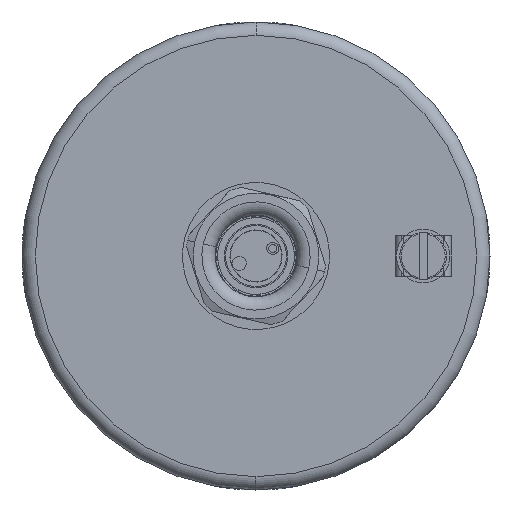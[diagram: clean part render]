
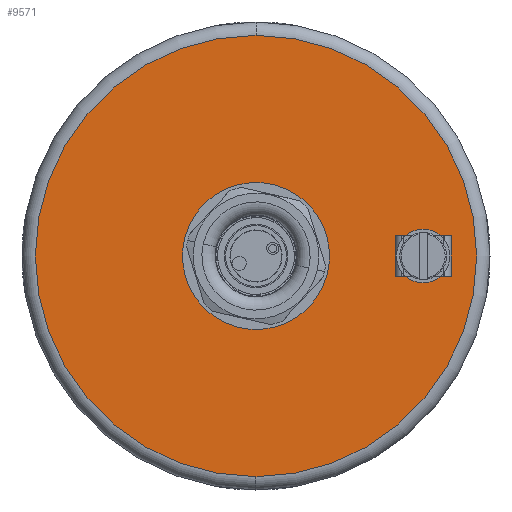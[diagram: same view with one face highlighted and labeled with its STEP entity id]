
A CAD part, left-side view. The second image highlights one B-rep face of the part: STEP entity #9571.
In plain terms, the highlighted planar face has unit normal (-1, 0, 0).
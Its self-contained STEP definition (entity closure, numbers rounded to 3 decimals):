
#819 = VERTEX_POINT ( 'NONE', #7577 ) ;
#1901 = CIRCLE ( 'NONE', #20270, 33. ) ;
#2283 = CARTESIAN_POINT ( 'NONE',  ( -70.2, -25., 0. ) ) ;
#2665 = ORIENTED_EDGE ( 'NONE', *, *, #28764, .F. ) ;
#2803 = VERTEX_POINT ( 'NONE', #29095 ) ;
#4082 = CARTESIAN_POINT ( 'NONE',  ( -70.2, 0., 8.25 ) ) ;
#4620 = DIRECTION ( 'NONE',  ( 0., 0., 1. ) ) ;
#5084 = EDGE_CURVE ( 'NONE', #13679, #819, #19835, .T. ) ;
#5354 = DIRECTION ( 'NONE',  ( 1., 0., 0. ) ) ;
#5719 = CARTESIAN_POINT ( 'NONE',  ( -70.2, -25., 0. ) ) ;
#5912 = DIRECTION ( 'NONE',  ( -1., 0., 0. ) ) ;
#5998 = VERTEX_POINT ( 'NONE', #9078 ) ;
#6315 = EDGE_CURVE ( 'NONE', #2803, #7885, #17434, .T. ) ;
#6645 = EDGE_LOOP ( 'NONE', ( #2665, #15400 ) ) ;
#6676 = EDGE_CURVE ( 'NONE', #7885, #2803, #1901, .T. ) ;
#7577 = CARTESIAN_POINT ( 'NONE',  ( -70.2, 0., -8.25 ) ) ;
#7879 = FACE_OUTER_BOUND ( 'NONE', #23588, .T. ) ;
#7885 = VERTEX_POINT ( 'NONE', #23615 ) ;
#8035 = DIRECTION ( 'NONE',  ( 0., 0., 1. ) ) ;
#8499 = AXIS2_PLACEMENT_3D ( 'NONE', #24157, #10338, #26499 ) ;
#8557 = ORIENTED_EDGE ( 'NONE', *, *, #6315, .F. ) ;
#8689 = CARTESIAN_POINT ( 'NONE',  ( -70.2, 33., 0. ) ) ;
#9078 = CARTESIAN_POINT ( 'NONE',  ( -70.2, -25., 2.675 ) ) ;
#9198 = EDGE_CURVE ( 'NONE', #819, #13679, #17989, .T. ) ;
#9571 = ADVANCED_FACE ( 'NONE', ( #25588, #19403, #7879 ), #22497, .F. ) ;
#10100 = CIRCLE ( 'NONE', #21350, 2.675 ) ;
#10338 = DIRECTION ( 'NONE',  ( 1., 0., 0. ) ) ;
#11900 = ORIENTED_EDGE ( 'NONE', *, *, #5084, .F. ) ;
#12373 = CARTESIAN_POINT ( 'NONE',  ( -70.2, 0., 0. ) ) ;
#13155 = ORIENTED_EDGE ( 'NONE', *, *, #9198, .F. ) ;
#13679 = VERTEX_POINT ( 'NONE', #4082 ) ;
#14457 = CARTESIAN_POINT ( 'NONE',  ( -70.2, -25., -2.675 ) ) ;
#14618 = AXIS2_PLACEMENT_3D ( 'NONE', #19707, #5912, #22045 ) ;
#14723 = DIRECTION ( 'NONE',  ( 0., 0., 1. ) ) ;
#15400 = ORIENTED_EDGE ( 'NONE', *, *, #20536, .F. ) ;
#15663 = DIRECTION ( 'NONE',  ( 0., 0., -1. ) ) ;
#17434 = CIRCLE ( 'NONE', #8499, 33. ) ;
#17989 = CIRCLE ( 'NONE', #20713, 8.25 ) ;
#18251 = AXIS2_PLACEMENT_3D ( 'NONE', #2283, #18408, #4620 ) ;
#18408 = DIRECTION ( 'NONE',  ( -1., 0., 0. ) ) ;
#19135 = CARTESIAN_POINT ( 'NONE',  ( -70.2, 0., 0. ) ) ;
#19403 = FACE_BOUND ( 'NONE', #25426, .T. ) ;
#19707 = CARTESIAN_POINT ( 'NONE',  ( -70.2, 0., 0. ) ) ;
#19835 = CIRCLE ( 'NONE', #14618, 8.25 ) ;
#20270 = AXIS2_PLACEMENT_3D ( 'NONE', #19135, #5354, #21459 ) ;
#20536 = EDGE_CURVE ( 'NONE', #26770, #5998, #27372, .T. ) ;
#20713 = AXIS2_PLACEMENT_3D ( 'NONE', #12373, #28533, #14723 ) ;
#20767 = ORIENTED_EDGE ( 'NONE', *, *, #6676, .F. ) ;
#21110 = AXIS2_PLACEMENT_3D ( 'NONE', #8689, #29489, #15663 ) ;
#21350 = AXIS2_PLACEMENT_3D ( 'NONE', #5719, #21842, #8035 ) ;
#21459 = DIRECTION ( 'NONE',  ( 0., 0., -1. ) ) ;
#21842 = DIRECTION ( 'NONE',  ( -1., 0., 0. ) ) ;
#22045 = DIRECTION ( 'NONE',  ( 0., 0., 1. ) ) ;
#22497 = PLANE ( 'NONE',  #21110 ) ;
#23588 = EDGE_LOOP ( 'NONE', ( #20767, #8557 ) ) ;
#23615 = CARTESIAN_POINT ( 'NONE',  ( -70.2, 0., -33. ) ) ;
#24157 = CARTESIAN_POINT ( 'NONE',  ( -70.2, 0., 0. ) ) ;
#25426 = EDGE_LOOP ( 'NONE', ( #11900, #13155 ) ) ;
#25588 = FACE_BOUND ( 'NONE', #6645, .T. ) ;
#26499 = DIRECTION ( 'NONE',  ( 0., 0., -1. ) ) ;
#26770 = VERTEX_POINT ( 'NONE', #14457 ) ;
#27372 = CIRCLE ( 'NONE', #18251, 2.675 ) ;
#28533 = DIRECTION ( 'NONE',  ( -1., 0., 0. ) ) ;
#28764 = EDGE_CURVE ( 'NONE', #5998, #26770, #10100, .T. ) ;
#29095 = CARTESIAN_POINT ( 'NONE',  ( -70.2, 0., 33. ) ) ;
#29489 = DIRECTION ( 'NONE',  ( 1., 0., 0. ) ) ;
